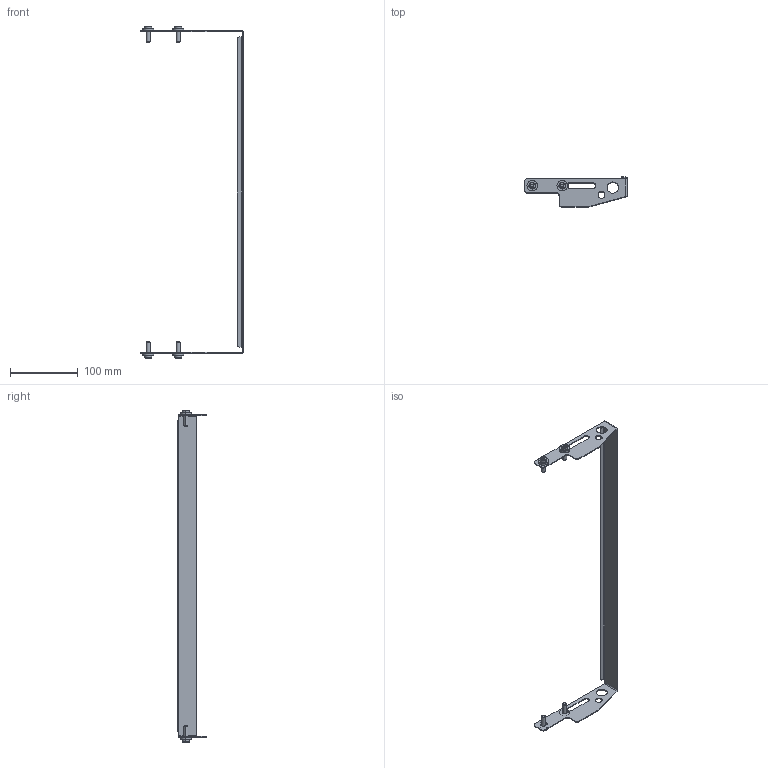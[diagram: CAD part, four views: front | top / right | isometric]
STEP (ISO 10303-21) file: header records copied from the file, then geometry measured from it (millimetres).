
FILE_DESCRIPTION((''),'2;1');
FILE_NAME('207218-18_ASM','2016-11-29T',('jenni.wallner'),(''),'PRO/ENGINEER BY PARAMETRIC TECHNOLOGY CORPORATION, 2012420','PRO/ENGINEER BY PARAMETRIC TECHNOLOGY CORPORATION, 2012420','');
FILE_SCHEMA(('CONFIG_CONTROL_DESIGN'));
Length unit declared in the file: inch
Products named in the file (4): 207125-18; 605279P_1; 9506XXM_950620M_1; 207218-18_ASM
Assembly tree (9 placements, depth 2):
  207218-18_ASM
    207125-18
    605279P_1  x4
    9506XXM_950620M_1  x4
Bounding box: 151.79 x 43.71 x 491.9 mm (x, y, z)
Volume: 35332.5 mm3; surface area: 56864.2 mm2
Topology: 9 solids, 9 shells, 212 faces, 492 edges, 306 vertices
Faces by surface type: plane 90, cylinder 78, cone 44
Entity records: 3908 total; most frequent: CARTESIAN_POINT 710, DIRECTION 683, ORIENTED_EDGE 618, EDGE_CURVE 309, AXIS2_PLACEMENT_3D 254, VERTEX_POINT 198, VECTOR 175, LINE 175
